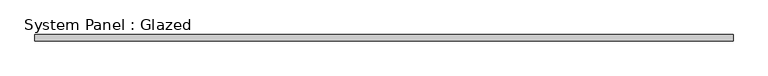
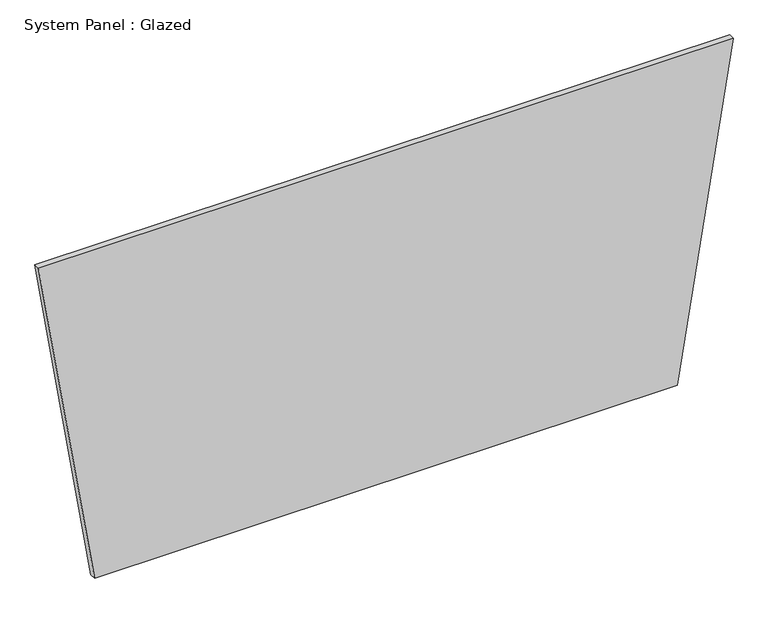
"""IFC4 building model written with IfcOpenShell, lengths in millimetres: plate geometry, System Panel : Glazed."""

from ifc_helpers import new_model, si_unit, frame, origin, place, context, project, spatial, polyline, outline, extrude, source, transform, mapped, element, save


def system_panel_glazed_891999a5(model_context):
    return source(origin(), model_context, "Body", "SweptSolid", [
        extrude(outline(polyline([(0.0, -1208.9867024), (0.0, 1208.9867024), (1441.0018398, 1441.7328764), (1441.0018398, -1441.7328764), (0.0, -1208.9867024)])), frame((0.0, 19.05, 0.0), z_axis=(0.0, 1.0, 0.0), x_axis=(0.0, 0.0, 1.0)), (0.0, 0.0, 1.0), 25.4),
    ])


if __name__ == "__main__":
    model = new_model("IFC4")
    model_context = context("Model", 3, world=origin())
    ifc_project = project(units=[si_unit("LENGTHUNIT", "METRE", prefix="MILLI")], contexts=[model_context])
    site = spatial("IfcSite", under=ifc_project)
    building = spatial("IfcBuilding", under=site)
    placement = place(None, origin())
    system_panel_glazed_shape = system_panel_glazed_891999a5(model_context)
    element("IfcPlate", 1, ObjectType="System Panel : Glazed", at=placement, inside=building, context=model_context, shape_type="MappedRepresentation", body=[
        mapped(system_panel_glazed_shape, transform((0.0, 0.0, 0.0), x_axis=(1.0, 0.0, 0.0), y_axis=(0.0, 1.0, 0.0), z_axis=(0.0, 0.0, 1.0))),
    ])
    save(model, "model.ifc")
